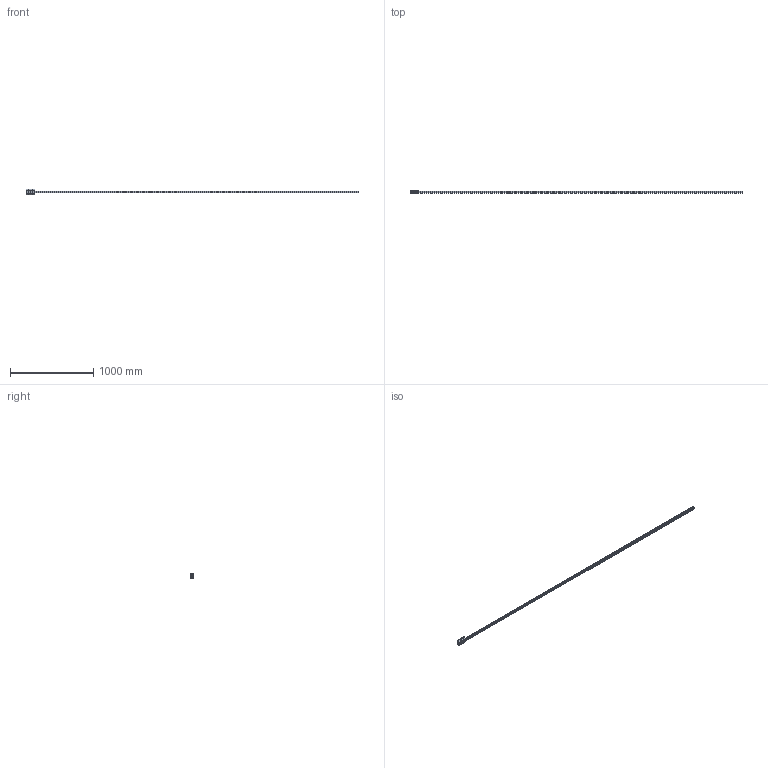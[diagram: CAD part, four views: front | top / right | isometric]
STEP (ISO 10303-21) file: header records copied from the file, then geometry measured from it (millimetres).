
FILE_DESCRIPTION( ( 'STEP AP203' ), '1' );
FILE_NAME( 'p:/temp/worker_4/temp/exporttempdir_4516_16_3jcC2/format_0/FDD25 84363P_4000-0.stp', '2021-04-27T06:39:46', ( 'License CC BY-ND 4.0' ), ( 'CADENAS' ), ' ', 'PARTsolutions', ' ' );
FILE_SCHEMA( ( 'CONFIG_CONTROL_DESIGN' ) );
Length unit declared in the file: millimetre
Products named in the file (3): FDD25 84363P_4000-0; _FD_25K-4000-0; _FDD_K25K Slider
Assembly tree (2 placements, depth 2):
  FDD25 84363P_4000-0
    _FD_25K-4000-0
    _FDD_K25K Slider
Bounding box: 4000 x 36 x 70 mm (x, y, z)
Volume: 2072432.7 mm3; surface area: 523341.6 mm2
Topology: 2 solids, 2 shells, 714 faces, 1884 edges, 1274 vertices
Faces by surface type: plane 379, cylinder 324, torus 8, cone 3
Full cylindrical faces by diameter (mm): 4.2 x1, 6.6 x67, 6.647 x4, 8.5 x8, 9 x4, 10 x8, 11 x67
Entity records: 21217 total; most frequent: DIRECTION 3719, CARTESIAN_POINT 3615, ORIENTED_EDGE 3278, EDGE_CURVE 1639, AXIS2_PLACEMENT_3D 1374, VERTEX_POINT 1196, EDGE_LOOP 1125, LINE 971
